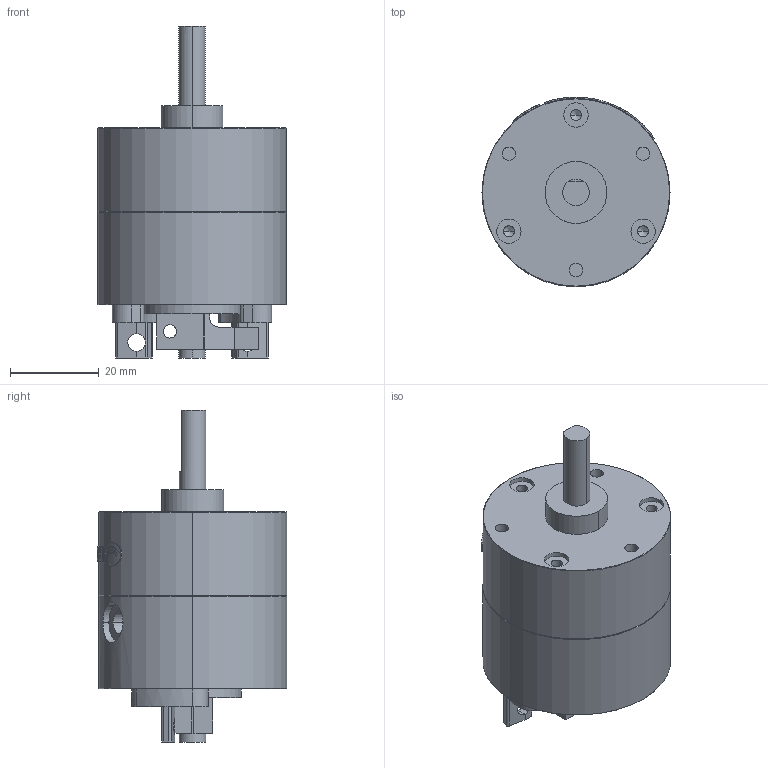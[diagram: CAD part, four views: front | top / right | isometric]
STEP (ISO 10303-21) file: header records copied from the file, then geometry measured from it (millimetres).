
FILE_DESCRIPTION (( 'STEP AP203' ), '1' );
FILE_NAME ('PROA10S-#-#.STEP', '2016-02-04T07:00:42', ( 'Sam Lin' ), ( '' ), 'SwSTEP 2.0', 'SolidWorks 2013', '' );
FILE_SCHEMA (( 'CONFIG_CONTROL_DESIGN' ));
Length unit declared in the file: metre
Products named in the file (8): mark-PROA10S; PROA10S-#-#; PROA10S-#-# (2); PROA10S-#-# (3); PROA10S-#-# (4); PROA10S-#-# (1); PROA10S-#-# (5); PROA10S-#-# (6)
Assembly tree (7 placements, depth 2):
  PROA10S-#-#
    PROA10S-#-# (3)
    PROA10S-#-# (4)
    PROA10S-#-# (1)
    PROA10S-#-# (5)
    PROA10S-#-# (6)
    PROA10S-#-# (2)
    mark-PROA10S
Bounding box: 42.5 x 42.8 x 75 mm (x, y, z)
Volume: 59709.9 mm3; surface area: 17596.8 mm2
Topology: 13 solids, 13 shells, 348 faces, 833 edges, 543 vertices
Faces by surface type: cylinder 164, plane 131, bspline 35, cone 18
Entity records: 15259 total; most frequent: CARTESIAN_POINT 6363, DIRECTION 1666, ORIENTED_EDGE 1646, EDGE_CURVE 823, AXIS2_PLACEMENT_3D 644, VERTEX_POINT 543, EDGE_LOOP 420, VECTOR 378
